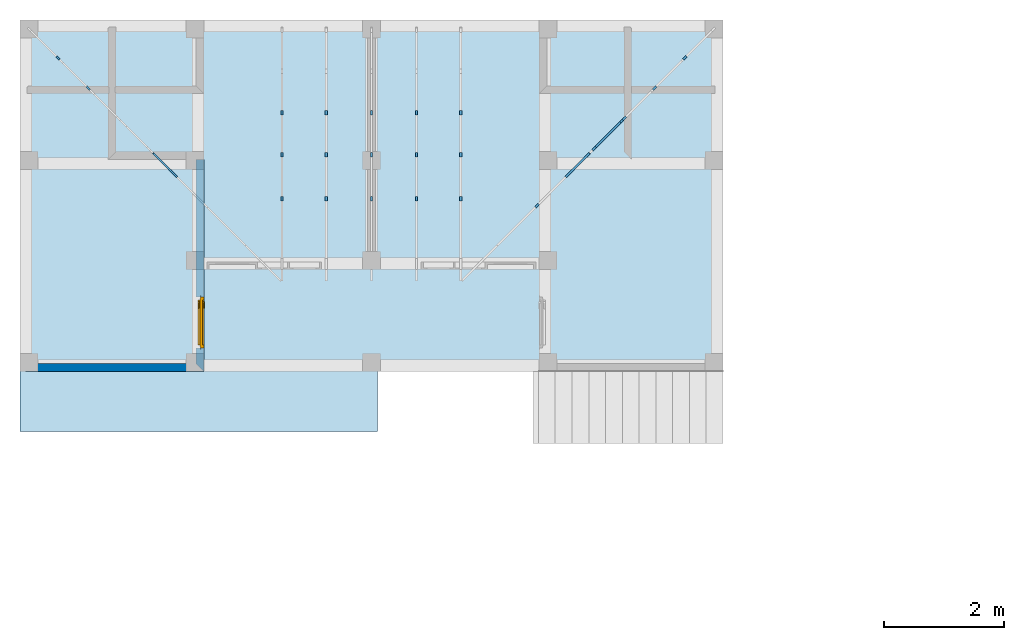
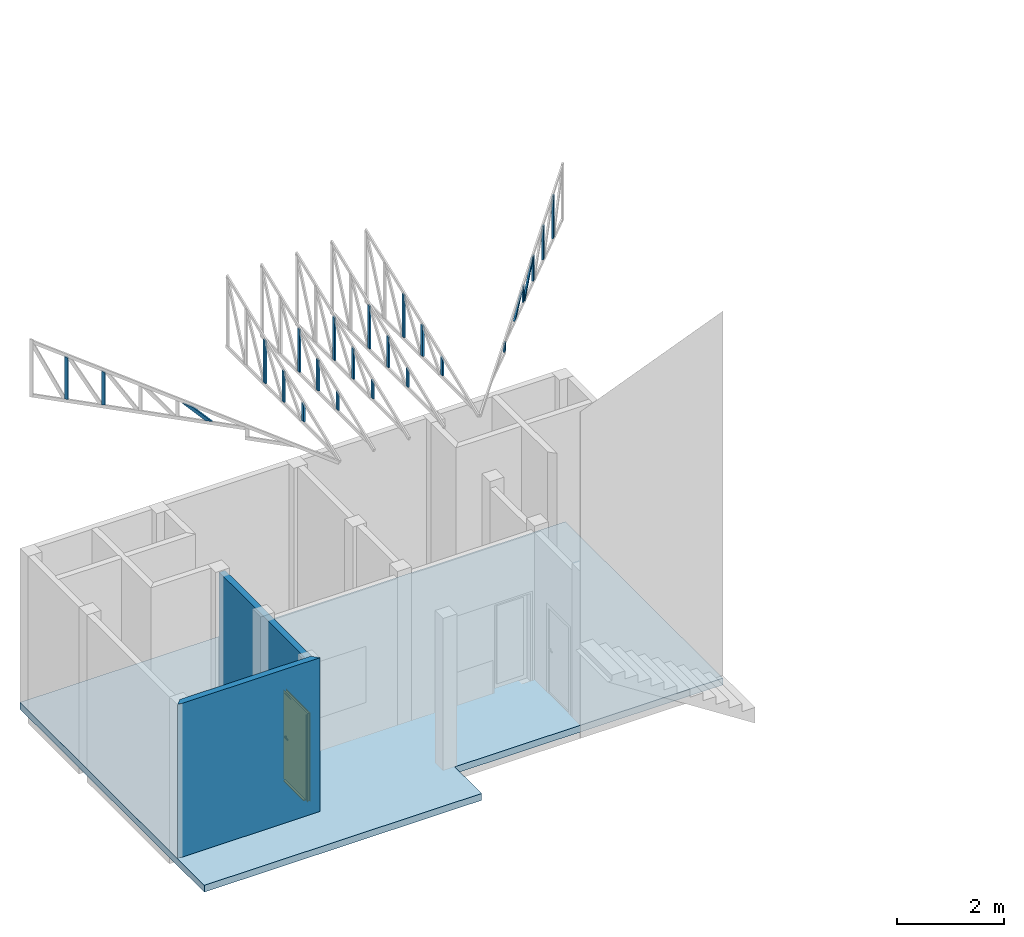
# One storey, part 3 of 10: 25 members, 2 walls, 1 door, 1 slab, 1 opening, 7 elements without a shape of their own.
"""IFC4X3_ADD2 building model written with IfcOpenShell, lengths in millimetres."""

from ifc_helpers import new_model, entity, si_unit, converted_unit, frame, origin_with_axes, origin_2d_with_axis, place, context, subcontext, project, spatial, line, indexed_curve, rectangle, outline, extrude, clip, halfspace, shape, source, transform, mapped, material, layer, layer_set, layer_usage, material_profile, profile_set, profile_usage, type_object, type_shapes, element, fill, aggregate, save


model = new_model("IFC4X3_ADD2")

# Units and contexts
model_context = context("Model", 3, precision=1e-05, world=origin_with_axes())
plan_context = context("Plan", 2, precision=1e-05, world=origin_2d_with_axis())
body_context_1 = subcontext(model_context, "Body", "Model", "MODEL_VIEW")
body_context_2 = subcontext(plan_context, "Body", "Plan", "PLAN_VIEW")
ifc_project = project(units=[si_unit("VOLUMEUNIT", "CUBIC_METRE"), si_unit("LENGTHUNIT", "METRE", prefix="MILLI"), converted_unit("PLANEANGLEUNIT", "degree", entity("IfcReal", 0.0174532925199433), si_unit("PLANEANGLEUNIT", "RADIAN"), dimensions=[0, 0, 0, 0, 0, 0, 0]), si_unit("AREAUNIT", "SQUARE_METRE")], contexts=[model_context, plan_context])

# Site, building, storey
site_placement = place(None, origin_with_axes())
site = spatial("IfcSite", under=ifc_project, at=site_placement, Name="My Site")
building_placement = place(site_placement, origin_with_axes())
building = spatial("IfcBuilding", under=site, at=building_placement, Name="My Building")
storey_placement = place(building_placement, origin_with_axes())
storey = spatial("IfcBuildingStorey", under=building, at=storey_placement, Name="Lantai 1")

# Assembly, members
assembly_1_placement = place(storey_placement, frame((-23.0636596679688, 5586.93552017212, 3885.87069511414), z_axis=(0.0, 0.0, 1.0), x_axis=(0.707106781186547, 0.707106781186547, 0.0)))
assembly_1 = element("IfcElementAssembly", 1, at=assembly_1_placement, inside=storey, Name="KK2_0")
ifc_material_1 = material(Name="Galvanis")
ifc_material_profile = material_profile(ifc_material_1, rectangle(XDim=35.0, YDim=75.0))
ifc_profile_set = profile_set([ifc_material_profile])
ifc_profile_usage_1 = profile_usage(ifc_profile_set, cardinal=5)
member_type = type_object("IfcMemberType", Name="C75", PredefinedType="MEMBER", material=ifc_profile_set)
member_1_placement = place(assembly_1_placement, frame((4.33337037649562, -713.761262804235, 3183.05468559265), z_axis=(0.0, 0.0, 1.0), x_axis=(-0.999999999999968, -2.52881095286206e-07, 0.0)))
member_1 = element("IfcMember", 2, at=member_1_placement, type_object=member_type, material=ifc_profile_usage_1, Name="Member", context=body_context_1, shape_type="Clipping", body=[
    clip(extrude(rectangle(XDim=35.0, YDim=75.0), origin_with_axes(), (0.0, 0.0, 1.0), 1029.21869607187), halfspace(frame((0.00149011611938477, 5247.90620803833, -529.044628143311), z_axis=(2.98023223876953e-08, 0.271984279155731, 0.962301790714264), x_axis=(0.999999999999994, -1.09573694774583e-07, 0.0)), False)),
])
ifc_profile_usage_2 = profile_usage(ifc_profile_set, cardinal=5)
member_2_placement = place(assembly_1_placement, frame((4.33370755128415, -1427.52218843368, 3183.05373191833), z_axis=(0.0, 0.0, 1.0), x_axis=(-0.999999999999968, -2.52881095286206e-07, 0.0)))
member_2 = element("IfcMember", 3, at=member_2_placement, type_object=member_type, material=ifc_profile_usage_2, Name="Member", context=body_context_1, shape_type="Clipping", body=[
    clip(extrude(rectangle(XDim=35.0, YDim=75.0), origin_with_axes(), (0.0, 0.0, 1.0), 827.482225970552), halfspace(frame((0.00149011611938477, 4534.14535522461, -529.044628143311), z_axis=(2.98023223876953e-08, 0.271984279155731, 0.962301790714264), x_axis=(0.999999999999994, -1.09573694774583e-07, 0.0)), False)),
])
ifc_profile_usage_3 = profile_usage(ifc_profile_set, cardinal=5)
member_3_placement = place(assembly_1_placement, frame((4.33337037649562, -3523.50485819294, 3139.91045951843), z_axis=(-2.10734242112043e-07, 0.817982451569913, 0.575243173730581), x_axis=(-0.999999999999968, -2.52881095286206e-07, 1.28053889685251e-08)))
member_3 = element("IfcMember", 4, at=member_3_placement, type_object=member_type, material=ifc_profile_usage_3, Name="Member", context=body_context_1, shape_type="Clipping", body=[
    clip(clip(extrude(rectangle(XDim=35.0, YDim=75.0), origin_with_axes(), (0.0, 0.0, 1.0), 665.670355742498), halfspace(frame((0.00101327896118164, 1005.07783889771, -2273.88477325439), z_axis=(2.98023223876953e-08, 0.943603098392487, 0.33107915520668), x_axis=(1.0, -3.15835359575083e-08, 0.0)), False)), halfspace(frame((0.000596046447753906, 405.028462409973, -500.941634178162), z_axis=(-6.32203693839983e-08, -0.817982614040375, -0.575242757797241), x_axis=(-0.999999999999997, 7.72881578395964e-08, 0.0)), False)),
])
aggregate(assembly_1, [member_1, member_2, member_3])

assembly_2_placement = place(storey_placement, frame((11456.9368362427, 5593.06478500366, 3886.06977462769), z_axis=(0.0, 0.0, 1.0), x_axis=(0.707106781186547, -0.707106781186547, 0.0)))
assembly_2 = element("IfcElementAssembly", 5, at=assembly_2_placement, inside=storey, Name="KK2_1")
ifc_profile_usage_4 = profile_usage(ifc_profile_set, cardinal=5)
member_4_placement = place(assembly_2_placement, frame((4.33404472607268, -1427.52185125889, 3183.05397033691), z_axis=(0.0, 0.0, 1.0), x_axis=(-0.999999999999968, -2.52881095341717e-07, 0.0)))
member_4 = element("IfcMember", 6, at=member_4_placement, type_object=member_type, material=ifc_profile_usage_4, Name="Member.035", context=body_context_1, shape_type="SweptSolid", body=[
    extrude(rectangle(XDim=35.0, YDim=75.0), origin_with_axes(), (0.0, 0.0, 1.0), 763.082017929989),
])
ifc_profile_usage_5 = profile_usage(ifc_profile_set, cardinal=5)
member_5_placement = place(assembly_2_placement, frame((4.33404472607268, -2141.28311406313, 3183.05397033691), z_axis=(-4.01943669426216e-13, 1.59049761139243e-06, 0.999999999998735), x_axis=(-0.999999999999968, -2.52881095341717e-07, -6.6386655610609e-14)))
member_5 = element("IfcMember", 7, at=member_5_placement, type_object=member_type, material=ifc_profile_usage_5, Name="Member.038", context=body_context_1, shape_type="SweptSolid", body=[
    extrude(rectangle(XDim=35.0, YDim=75.0), origin_with_axes(), (0.0, 0.0, 1.0), 561.345106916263),
])
ifc_profile_usage_6 = profile_usage(ifc_profile_set, cardinal=5)
member_6_placement = place(assembly_2_placement, frame((4.3333703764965, -2855.04370251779, 3183.05397033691), z_axis=(0.0, 0.0, 1.0), x_axis=(-0.999999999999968, -2.52881095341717e-07, 0.0)))
member_6 = element("IfcMember", 8, at=member_6_placement, type_object=member_type, material=ifc_profile_usage_6, Name="Member.039", context=body_context_1, shape_type="SweptSolid", body=[
    extrude(rectangle(XDim=35.0, YDim=75.0), origin_with_axes(), (0.0, 0.0, 1.0), 359.609133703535),
])
ifc_profile_usage_7 = profile_usage(ifc_profile_set, cardinal=5)
member_7_placement = place(assembly_2_placement, frame((4.33337037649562, -713.761262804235, 3183.05492401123), z_axis=(0.0, 0.0, 1.0), x_axis=(-0.999999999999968, -2.52881095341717e-07, 0.0)))
member_7 = element("IfcMember", 9, at=member_7_placement, type_object=member_type, material=ifc_profile_usage_7, Name="Member.048", context=body_context_1, shape_type="SweptSolid", body=[
    extrude(rectangle(XDim=35.0, YDim=75.0), origin_with_axes(), (0.0, 0.0, 1.0), 964.81848309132),
])
ifc_profile_usage_8 = profile_usage(ifc_profile_set, cardinal=5)
member_8_placement = place(assembly_2_placement, frame((4.33337037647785, -2806.05760060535, 3156.34822845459), z_axis=(-1.26440541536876e-07, 0.712115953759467, 0.702061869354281), x_axis=(-0.999999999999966, -2.52881095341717e-07, 5.5682812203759e-08)))
member_8 = element("IfcMember", 10, at=member_8_placement, type_object=member_type, material=ifc_profile_usage_8, Name="Member.049", context=body_context_1, shape_type="SweptSolid", body=[
    extrude(rectangle(XDim=35.0, YDim=75.0), origin_with_axes(), (0.0, 0.0, 1.0), 846.074566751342),
])
ifc_profile_usage_9 = profile_usage(ifc_profile_set, cardinal=5)
member_9_placement = place(assembly_2_placement, frame((4.33303320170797, -4203.75735338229, 2960.51692962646), z_axis=(0.0, 0.0, 1.0), x_axis=(-0.999999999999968, -2.52881095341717e-07, 0.0)))
member_9 = element("IfcMember", 11, at=member_9_placement, type_object=member_type, material=ifc_profile_usage_9, Name="Member.050", context=body_context_1, shape_type="SweptSolid", body=[
    extrude(rectangle(XDim=35.0, YDim=75.0), origin_with_axes(), (0.0, 0.0, 1.0), 200.947284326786),
])
ifc_profile_usage_10 = profile_usage(ifc_profile_set, cardinal=5)
member_10_placement = place(assembly_2_placement, frame((4.33337037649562, -3523.50485819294, 3139.91069793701), z_axis=(-1.68587393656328e-07, 0.817982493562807, 0.575243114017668), x_axis=(-0.999999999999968, -2.52881095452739e-07, 2.03708449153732e-08)))
member_10 = element("IfcMember", 12, at=member_10_placement, type_object=member_type, material=ifc_profile_usage_10, Name="Member.053", context=body_context_1, shape_type="Clipping", body=[
    clip(clip(extrude(rectangle(XDim=35.0, YDim=75.0), origin_with_axes(), (0.0, 0.0, 1.0), 665.669381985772), halfspace(frame((-0.000103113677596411, 1005.07736206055, -2273.88525009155), z_axis=(-1.35233946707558e-07, 0.943602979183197, 0.331079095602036), x_axis=(0.99999999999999, 1.43316574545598e-07, 0.0)), False)), halfspace(frame((-2.77423026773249e-05, 405.028104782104, -500.942230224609), z_axis=(3.34178338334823e-08, -0.817982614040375, -0.575242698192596), x_axis=(-0.999999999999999, -4.08539659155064e-08, 0.0)), False)),
])
aggregate(assembly_2, [member_4, member_5, member_6, member_7, member_8, member_9, member_10])

assembly_3_placement = place(storey_placement, frame((4964.99967575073, 5604.99954223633, 6607.21015930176), z_axis=(0.0, 0.0, 1.0), x_axis=(1.0, 0.0, 0.0)))
assembly_3 = element("IfcElementAssembly", 13, at=assembly_3_placement, inside=storey, Name="KK1_1")
ifc_profile_usage_11 = profile_usage(ifc_profile_set, cardinal=2)
member_11_placement = place(assembly_3_placement, frame((0.0, -2833.3535194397, 75.0002861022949), z_axis=(0.0, 0.0, 1.0), x_axis=(-0.999999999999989, -1.50995802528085e-07, 0.0)))
member_11 = element("IfcMember", 14, at=member_11_placement, type_object=member_type, material=ifc_profile_usage_11, Name="Member.068", context=body_context_1, shape_type="Clipping", body=[
    clip(extrude(rectangle(XDim=35.0, YDim=75.0), frame((0.0, 37.5, 0.0), z_axis=(0.0, 0.0, 1.0), x_axis=(1.0, 0.0, 0.0)), (0.0, 0.0, 1.0), 484.720706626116), halfspace(frame((-0.000369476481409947, -2833.23574066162, 1534.339427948), z_axis=(5.5707754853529e-08, 0.368935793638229, 0.929454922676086), x_axis=(0.999999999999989, -1.50995798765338e-07, 0.0)), False)),
])
ifc_profile_usage_12 = profile_usage(ifc_profile_set, cardinal=2)
member_12_placement = place(assembly_3_placement, frame((0.0, -1399.99771118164, 74.9998092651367), z_axis=(0.0, 0.0, 1.0), x_axis=(-0.999999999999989, -1.50995802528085e-07, 0.0)))
member_12 = element("IfcMember", 15, at=member_12_placement, type_object=member_type, material=ifc_profile_usage_12, Name="Member.079", context=body_context_1, shape_type="SweptSolid", body=[
    extrude(rectangle(XDim=35.0, YDim=75.0), frame((0.0, 37.5, 0.0), z_axis=(0.0, 0.0, 1.0), x_axis=(1.0, 0.0, 0.0)), (0.0, 0.0, 1.0), 975.92401613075),
])
ifc_profile_usage_13 = profile_usage(ifc_profile_set, cardinal=2)
member_13_placement = place(assembly_3_placement, frame((0.0, -2100.00228881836, 74.9998092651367), z_axis=(0.0, 0.0, 1.0), x_axis=(-0.999999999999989, -1.50995802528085e-07, 0.0)))
member_13 = element("IfcMember", 16, at=member_13_placement, type_object=member_type, material=ifc_profile_usage_13, Name="Member.098", context=body_context_1, shape_type="SweptSolid", body=[
    extrude(rectangle(XDim=35.0, YDim=75.0), frame((0.0, 37.5, 0.0), z_axis=(0.0, 0.0, 1.0), x_axis=(1.0, 0.0, 0.0)), (0.0, 0.0, 1.0), 696.690084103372),
])
aggregate(assembly_3, [member_11, member_12, member_13])

assembly_4_placement = place(storey_placement, frame((7212.50009536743, 5604.99954223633, 6607.21015930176), z_axis=(0.0, 0.0, 1.0), x_axis=(1.0, 0.0, 0.0)))
assembly_4 = element("IfcElementAssembly", 17, at=assembly_4_placement, inside=storey, Name="KK1_4")
ifc_profile_usage_14 = profile_usage(ifc_profile_set, cardinal=2)
member_14_placement = place(assembly_4_placement, frame((0.0, -1399.99771118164, 74.9998092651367), z_axis=(0.0, 0.0, 1.0), x_axis=(-0.999999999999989, -1.50995802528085e-07, 0.0)))
member_14 = element("IfcMember", 18, at=member_14_placement, type_object=member_type, material=ifc_profile_usage_14, Name="Member.075", context=body_context_1, shape_type="SweptSolid", body=[
    extrude(rectangle(XDim=35.0, YDim=75.0), frame((0.0, 37.5, 0.0), z_axis=(0.0, 0.0, 1.0), x_axis=(1.0, 0.0, 0.0)), (0.0, 0.0, 1.0), 975.92401613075),
])
ifc_profile_usage_15 = profile_usage(ifc_profile_set, cardinal=2)
member_15_placement = place(assembly_4_placement, frame((0.0, -2833.3535194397, 75.0002861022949), z_axis=(0.0, 0.0, 1.0), x_axis=(-0.999999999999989, -1.50995802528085e-07, 0.0)))
member_15 = element("IfcMember", 19, at=member_15_placement, type_object=member_type, material=ifc_profile_usage_15, Name="Member.080", context=body_context_1, shape_type="Clipping", body=[
    clip(extrude(rectangle(XDim=35.0, YDim=75.0), frame((0.0, 37.5, 0.0), z_axis=(0.0, 0.0, 1.0), x_axis=(1.0, 0.0, 0.0)), (0.0, 0.0, 1.0), 484.720706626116), halfspace(frame((-0.000369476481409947, -2833.23574066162, 1534.339427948), z_axis=(5.5707754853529e-08, 0.368935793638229, 0.929454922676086), x_axis=(0.999999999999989, -1.50995798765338e-07, 0.0)), False)),
])
ifc_profile_usage_16 = profile_usage(ifc_profile_set, cardinal=2)
member_16_placement = place(assembly_4_placement, frame((0.0, -2100.00228881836, 74.9998092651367), z_axis=(0.0, 0.0, 1.0), x_axis=(-0.999999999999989, -1.50995802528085e-07, 0.0)))
member_16 = element("IfcMember", 20, at=member_16_placement, type_object=member_type, material=ifc_profile_usage_16, Name="Member.081", context=body_context_1, shape_type="SweptSolid", body=[
    extrude(rectangle(XDim=35.0, YDim=75.0), frame((0.0, 37.5, 0.0), z_axis=(0.0, 0.0, 1.0), x_axis=(1.0, 0.0, 0.0)), (0.0, 0.0, 1.0), 696.690084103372),
])
aggregate(assembly_4, [member_14, member_15, member_16])

assembly_5_placement = place(storey_placement, frame((6474.99990463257, 5604.99954223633, 6607.21063613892), z_axis=(0.0, 0.0, 1.0), x_axis=(1.0, 0.0, 0.0)))
assembly_5 = element("IfcElementAssembly", 21, at=assembly_5_placement, inside=storey, Name="KK1_3")
ifc_profile_usage_17 = profile_usage(ifc_profile_set, cardinal=2)
member_17_placement = place(assembly_5_placement, frame((0.0, -1399.99771118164, 74.9998092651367), z_axis=(0.0, 0.0, 1.0), x_axis=(-0.999999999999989, -1.50995802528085e-07, 0.0)))
member_17 = element("IfcMember", 22, at=member_17_placement, type_object=member_type, material=ifc_profile_usage_17, Name="Member.084", context=body_context_1, shape_type="SweptSolid", body=[
    extrude(rectangle(XDim=35.0, YDim=75.0), frame((0.0, 37.5, 0.0), z_axis=(0.0, 0.0, 1.0), x_axis=(1.0, 0.0, 0.0)), (0.0, 0.0, 1.0), 975.92401613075),
])
ifc_profile_usage_18 = profile_usage(ifc_profile_set, cardinal=2)
member_18_placement = place(assembly_5_placement, frame((0.0, -2833.3535194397, 75.0002861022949), z_axis=(0.0, 0.0, 1.0), x_axis=(-0.999999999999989, -1.50995802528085e-07, 0.0)))
member_18 = element("IfcMember", 23, at=member_18_placement, type_object=member_type, material=ifc_profile_usage_18, Name="Member.099", context=body_context_1, shape_type="Clipping", body=[
    clip(extrude(rectangle(XDim=35.0, YDim=75.0), frame((0.0, 37.5, 0.0), z_axis=(0.0, 0.0, 1.0), x_axis=(1.0, 0.0, 0.0)), (0.0, 0.0, 1.0), 484.720706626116), halfspace(frame((-0.000369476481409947, -2833.23574066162, 1534.339427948), z_axis=(5.5707754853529e-08, 0.368935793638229, 0.929454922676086), x_axis=(0.999999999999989, -1.50995798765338e-07, 0.0)), False)),
])
ifc_profile_usage_19 = profile_usage(ifc_profile_set, cardinal=2)
member_19_placement = place(assembly_5_placement, frame((0.0, -2100.00228881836, 74.9998092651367), z_axis=(0.0, 0.0, 1.0), x_axis=(-0.999999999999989, -1.50995802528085e-07, 0.0)))
member_19 = element("IfcMember", 24, at=member_19_placement, type_object=member_type, material=ifc_profile_usage_19, Name="Member.100", context=body_context_1, shape_type="SweptSolid", body=[
    extrude(rectangle(XDim=35.0, YDim=75.0), frame((0.0, 37.5, 0.0), z_axis=(0.0, 0.0, 1.0), x_axis=(1.0, 0.0, 0.0)), (0.0, 0.0, 1.0), 696.690084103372),
])
aggregate(assembly_5, [member_17, member_18, member_19])

assembly_6_placement = place(storey_placement, frame((4227.49996185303, 5604.99954223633, 6607.21015930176), z_axis=(0.0, 0.0, 1.0), x_axis=(1.0, 0.0, 0.0)))
assembly_6 = element("IfcElementAssembly", 25, at=assembly_6_placement, inside=storey, Name="KK1_2")
ifc_profile_usage_20 = profile_usage(ifc_profile_set, cardinal=2)
member_20_placement = place(assembly_6_placement, frame((0.0, -1399.99771118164, 74.9998092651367), z_axis=(0.0, 0.0, 1.0), x_axis=(-0.999999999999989, -1.50995802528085e-07, 0.0)))
member_20 = element("IfcMember", 26, at=member_20_placement, type_object=member_type, material=ifc_profile_usage_20, Name="Member.056", context=body_context_1, shape_type="SweptSolid", body=[
    extrude(rectangle(XDim=35.0, YDim=75.0), frame((0.0, 37.5, 0.0), z_axis=(0.0, 0.0, 1.0), x_axis=(1.0, 0.0, 0.0)), (0.0, 0.0, 1.0), 975.92401613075),
])
ifc_profile_usage_21 = profile_usage(ifc_profile_set, cardinal=2)
member_21_placement = place(assembly_6_placement, frame((0.0, -2833.3535194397, 75.0002861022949), z_axis=(0.0, 0.0, 1.0), x_axis=(-0.999999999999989, -1.50995802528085e-07, 0.0)))
member_21 = element("IfcMember", 27, at=member_21_placement, type_object=member_type, material=ifc_profile_usage_21, Name="Member.060", context=body_context_1, shape_type="Clipping", body=[
    clip(extrude(rectangle(XDim=35.0, YDim=75.0), frame((0.0, 37.5, 0.0), z_axis=(0.0, 0.0, 1.0), x_axis=(1.0, 0.0, 0.0)), (0.0, 0.0, 1.0), 484.720706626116), halfspace(frame((-0.000369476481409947, -2833.23574066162, 1534.339427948), z_axis=(5.5707754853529e-08, 0.368935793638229, 0.929454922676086), x_axis=(0.999999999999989, -1.50995798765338e-07, 0.0)), False)),
])
ifc_profile_usage_22 = profile_usage(ifc_profile_set, cardinal=2)
member_22_placement = place(assembly_6_placement, frame((0.0, -2100.00228881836, 74.9998092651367), z_axis=(0.0, 0.0, 1.0), x_axis=(-0.999999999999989, -1.50995802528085e-07, 0.0)))
member_22 = element("IfcMember", 28, at=member_22_placement, type_object=member_type, material=ifc_profile_usage_22, Name="Member.061", context=body_context_1, shape_type="SweptSolid", body=[
    extrude(rectangle(XDim=35.0, YDim=75.0), frame((0.0, 37.5, 0.0), z_axis=(0.0, 0.0, 1.0), x_axis=(1.0, 0.0, 0.0)), (0.0, 0.0, 1.0), 696.690084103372),
])
aggregate(assembly_6, [member_20, member_21, member_22])

assembly_7_placement = place(storey_placement, frame((5720.00169754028, 5604.99954223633, 6607.21015930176), z_axis=(0.0, 0.0, 1.0), x_axis=(1.0, 0.0, 0.0)))
assembly_7 = element("IfcElementAssembly", 29, at=assembly_7_placement, inside=storey, Name="KK1_0")
ifc_profile_usage_23 = profile_usage(ifc_profile_set, cardinal=2)
member_23_placement = place(assembly_7_placement, frame((0.0, -1399.99771118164, 74.9998092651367), z_axis=(0.0, 0.0, 1.0), x_axis=(-0.999999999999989, -1.50995802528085e-07, 0.0)))
member_23 = element("IfcMember", 30, at=member_23_placement, type_object=member_type, material=ifc_profile_usage_23, Name="Member.010", context=body_context_1, shape_type="SweptSolid", body=[
    extrude(rectangle(XDim=35.0, YDim=75.0), frame((0.0, 37.5, 0.0), z_axis=(0.0, 0.0, 1.0), x_axis=(1.0, 0.0, 0.0)), (0.0, 0.0, 1.0), 975.92401613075),
])
ifc_profile_usage_24 = profile_usage(ifc_profile_set, cardinal=2)
member_24_placement = place(assembly_7_placement, frame((0.0, -2833.3535194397, 75.0002861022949), z_axis=(0.0, 0.0, 1.0), x_axis=(-0.999999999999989, -1.50995802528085e-07, 0.0)))
member_24 = element("IfcMember", 31, at=member_24_placement, type_object=member_type, material=ifc_profile_usage_24, Name="Member.014", context=body_context_1, shape_type="Clipping", body=[
    clip(extrude(rectangle(XDim=35.0, YDim=75.0), frame((0.0, 37.5, 0.0), z_axis=(0.0, 0.0, 1.0), x_axis=(1.0, 0.0, 0.0)), (0.0, 0.0, 1.0), 484.720706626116), halfspace(frame((-0.000369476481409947, -2833.23574066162, 1534.339427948), z_axis=(5.5707754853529e-08, 0.368935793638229, 0.929454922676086), x_axis=(0.999999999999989, -1.50995798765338e-07, 0.0)), False)),
])
ifc_profile_usage_25 = profile_usage(ifc_profile_set, cardinal=2)
member_25_placement = place(assembly_7_placement, frame((0.0, -2100.00228881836, 74.9998092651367), z_axis=(0.0, 0.0, 1.0), x_axis=(-0.999999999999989, -1.50995802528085e-07, 0.0)))
member_25 = element("IfcMember", 32, at=member_25_placement, type_object=member_type, material=ifc_profile_usage_25, Name="Member.016", context=body_context_1, shape_type="SweptSolid", body=[
    extrude(rectangle(XDim=35.0, YDim=75.0), frame((0.0, 37.5, 0.0), z_axis=(0.0, 0.0, 1.0), x_axis=(1.0, 0.0, 0.0)), (0.0, 0.0, 1.0), 696.690084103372),
])
aggregate(assembly_7, [member_23, member_24, member_25])

# Slab
ifc_material_2 = material(Name="concrete")
ifc_layer_1 = layer(ifc_material_2, 120.000007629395)
ifc_material_3 = material(Name="keramik")
ifc_layer_2 = layer(ifc_material_3, 35.0)
ifc_layer_set_1 = layer_set([ifc_layer_1, ifc_layer_2])
ifc_layer_usage_1 = layer_usage(ifc_layer_set_1, "AXIS3", "POSITIVE", -120.000007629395)
slab_type = type_object("IfcSlabType", Name="concrete slab", PredefinedType="FLOOR", material=ifc_layer_set_1)
slab_placement = place(storey_placement, frame((-149.999558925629, 5719.99979019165, -35.0000001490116), z_axis=(0.0, 0.0, 1.0), x_axis=(1.0, 0.0, 0.0)))
element("IfcSlab", 33, at=slab_placement, inside=storey, type_object=slab_type, material=ifc_layer_usage_1, Name="Slab", context=body_context_1, shape_type="SweptSolid", body=[
    extrude(outline(indexed_curve([(11739.9990234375, -5869.99951171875), (11739.9990234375, 0.0), (0.0, 0.0), (-0.000447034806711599, -6869.998046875), (5969.9990234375, -6869.998046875), (5969.9990234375, -5869.99951171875), (11739.9990234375, -5869.99951171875)])), frame((0.0, 0.0, -120.000007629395), z_axis=(0.0, 0.0, 1.0), x_axis=(1.0, 0.0, 0.0)), (0.0, 0.0, 1.0), 155.000007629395),
])

# Wall
ifc_material_4 = material(Name="plester")
ifc_layer_3 = layer(ifc_material_4, 15.0000009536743, Priority=1)
ifc_material_5 = material(Name="brick", Category="Uncategorised")
ifc_layer_4 = layer(ifc_material_5, 100.0, Priority=4)
ifc_layer_5 = layer(ifc_material_4, 15.0000009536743)
ifc_layer_set_2 = layer_set([ifc_layer_3, ifc_layer_4, ifc_layer_5])
ifc_layer_usage_2 = layer_usage(ifc_layer_set_2, "AXIS2", "POSITIVE", 0.0)
wall_type = type_object("IfcWallType", Name="WALL-130", PredefinedType="SOLIDWALL", material=ifc_layer_set_2)
wall_1_placement = place(storey_placement, frame((2920.00007629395, -20.0000040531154, 0.0), z_axis=(0.0, 0.0, 1.0), x_axis=(-0.999999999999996, 8.74227765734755e-08, 0.0)))
element("IfcWall", 34, at=wall_1_placement, inside=storey, type_object=wall_type, material=ifc_layer_usage_2, Name="Wall", context=body_context_1, shape_type="SweptSolid", body=[
    extrude(outline(indexed_curve([(130.000000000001, 0.0), (115.000000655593, 15.0000009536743), (15.0000113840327, 115.000000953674), (1.20396245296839e-05, 130.000001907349), (2955.00006993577, 130.000001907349), (3055.00007011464, 115.000000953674), (2955.00007130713, 15.0000009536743), (2955.000071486, 0.0), (2940.00007053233, 0.0)], segments=[line(1, 2, 3, 4, 5, 6, 7, 8, 9, 1)])), origin_with_axes(), (0.0, 0.0, 1.0), 3500.00023841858),
])

# Wall, opening, door
ifc_layer_usage_3 = layer_usage(ifc_layer_set_2, "AXIS2", "NEGATIVE", 130.0)
wall_2_placement = place(storey_placement, frame((2920.00007629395, -20.0000040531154, 0.0), z_axis=(0.0, 0.0, 1.0), x_axis=(1.94707183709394e-07, 0.999999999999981, 0.0)))
wall_2 = element("IfcWall", 35, at=wall_2_placement, inside=storey, type_object=wall_type, material=ifc_layer_usage_3, Name="Wall", context=body_context_1, shape_type="SweptSolid", body=[
    extrude(outline(indexed_curve([(-130.000001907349, -1.90734860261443e-06), (-115.000002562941, 14.9999990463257), (-15.0000132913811, 114.999999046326), (-1.39469729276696e-05, 130.0), (3409.99998384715, 130.0), (3409.99998384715, -1.90734860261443e-06)], segments=[line(1, 2, 3, 4, 5, 6, 1)])), origin_with_axes(), (0.0, 0.0, 1.0), 3345.00026702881),
])
shared_shape_1 = source(origin_with_axes(), body_context_1, "Body", "SweptSolid", [
    extrude(outline(indexed_curve([(0.0, 0.0), (850.0, 0.0), (850.0, 2000.0), (0.0, 2000.0)], segments=[line(1, 2, 3, 4, 1)])), frame((0.0, -600.0, 0.0), z_axis=(0.0, -1.0, 0.0), x_axis=(1.0, 0.0, 0.0)), (0.0, 0.0, -1.0), 1200.0),
])
opening_placement = place(wall_2_placement, frame((263.47722935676, 5.13009092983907e-05, 0.0), z_axis=(0.0, 0.0, 1.0), x_axis=(0.999999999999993, -1.19209289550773e-07, 0.0)))
opening = element("IfcOpeningElement", 36, at=opening_placement, cuts=wall_2, Name="Opening", PredefinedType="OPENING", context=body_context_1, shape_type="MappedRepresentation", body=[
    mapped(shared_shape_1, transform((0.0, 0.0, 0.0), x_axis=(1.0, 0.0, 0.0), y_axis=(0.0, 1.0, 0.0), z_axis=(0.0, 0.0, 1.0), scale=1.0)),
])
door_type = type_object("IfcDoorType", Name="D01 L", OperationType="SINGLE_SWING_LEFT", PredefinedType="BOOM_BARRIER")
shared_shape_2 = source(origin_with_axes(), body_context_1, "Body", "SweptSolid", [
    extrude(outline(indexed_curve([(0.0, 0.0), (0.0, 2000.0), (850.000023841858, 2000.0), (850.000023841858, 0.0), (825.000023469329, 0.0), (825.000023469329, 1974.99999962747), (25.000000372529, 1974.99999962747), (25.000000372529, 0.0)], segments=[line(1, 2, 3, 4, 5, 6, 7, 8, 1)])), frame((0.0, 25.000000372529, 0.0), z_axis=(0.0, -1.0, 0.0), x_axis=(1.0, 0.0, 0.0)), (0.0, 0.0, -1.0), 25.000000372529),
    extrude(outline(indexed_curve([(0.0, 0.0), (0.0, 2000.0), (850.000023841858, 2000.0), (850.000023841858, 0.0), (800.0000230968, 0.0), (800.0000230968, 1949.99999925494), (50.0000007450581, 1949.99999925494), (50.0000007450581, 0.0)], segments=[line(1, 2, 3, 4, 5, 6, 7, 8, 1)])), frame((0.0, 0.0, 0.0), z_axis=(0.0, -1.0, 0.0), x_axis=(1.0, 0.0, 0.0)), (0.0, 0.0, -1.0), 25.000000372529),
    extrude(outline(indexed_curve([(0.0, 0.0), (800.0000230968, 0.0), (800.0000230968, 35.0000001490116), (0.0, 35.0000001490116)], segments=[line(1, 2, 3, 4, 1)])), frame((25.000000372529, 25.000000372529, 25.000000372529), z_axis=(0.0, 0.0, 1.0), x_axis=(1.0, 0.0, 0.0)), (0.0, 0.0, 1.0), 1949.99999925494),
    extrude(outline(indexed_curve([(0.0, 0.0), (0.0, -40.0), (-120.0, -40.0), (-120.0, -20.0), (-20.0, -20.0), (-20.0, 0.0)], segments=[line(1, 2, 3, 4, 5, 6, 1)])), frame((775.000023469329, 25.000000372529, 1015.00000037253), z_axis=(0.0, 0.0, 1.0), x_axis=(1.0, 0.0, 0.0)), (0.0, 0.0, 1.0), 20.0),
    extrude(outline(indexed_curve([(0.0, 0.0), (0.0, 40.0), (-120.0, 40.0), (-120.0, 20.0), (-20.0, 20.0), (-20.0, 0.0)], segments=[line(1, 2, 3, 4, 5, 6, 1)])), frame((775.000023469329, 60.0000005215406, 1015.00000037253), z_axis=(0.0, 0.0, 1.0), x_axis=(1.0, 0.0, 0.0)), (0.0, 0.0, 1.0), 20.0),
    extrude(outline(indexed_curve([(0.0, 0.0), (750.000022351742, 0.0), (750.000022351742, 100.000001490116), (0.0, 100.000001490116)], segments=[line(1, 2, 3, 4, 1)])), frame((50.0000007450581, 0.0, 0.0), z_axis=(0.0, 0.0, 1.0), x_axis=(1.0, 0.0, 0.0)), (0.0, 0.0, 1.0), 25.000000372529),
    extrude(outline(indexed_curve([(0.0, 0.0), (0.0, 2025.00000223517), (900.000028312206, 2025.00000223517), (900.000028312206, 0.0), (825.000025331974, 0.0), (825.000025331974, 1949.99999925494), (75.0000029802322, 1949.99999925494), (75.0000029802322, 0.0)], segments=[line(1, 2, 3, 4, 5, 6, 7, 8, 1)])), frame((-25.0000022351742, -4.99999988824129, 0.0), z_axis=(0.0, -1.0, 0.0), x_axis=(1.0, 0.0, 0.0)), (0.0, 0.0, -1.0), 4.99999988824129),
    extrude(outline(indexed_curve([(0.0, 0.0), (0.0, 2025.00000223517), (900.000028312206, 2025.00000223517), (900.000028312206, 0.0), (850.000025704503, 0.0), (850.000025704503, 1974.99999962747), (50.0000026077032, 1974.99999962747), (50.0000026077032, 0.0)], segments=[line(1, 2, 3, 4, 5, 6, 7, 8, 1)])), frame((-25.0000022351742, 50.0000007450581, 0.0), z_axis=(0.0, -1.0, 0.0), x_axis=(1.0, 0.0, 0.0)), (0.0, 0.0, -1.0), 4.99999988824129),
])
shared_shape_3 = source(origin_with_axes(), body_context_2, "Body", "Curve2D", [
    entity("IfcIndexedPolyCurve", entity("IfcCartesianPointList2D", [[0.0, 0.0], [0.0, 50.0000007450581], [25.000000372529, 50.0000007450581], [25.000000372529, 25.000000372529], [50.0000007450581, 25.000000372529], [50.0000007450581, 0.0]]), [entity("IfcLineIndex", [1, 2, 3, 4, 5, 6, 1])]),
    entity("IfcIndexedPolyCurve", entity("IfcCartesianPointList2D", [[850.000023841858, 0.0], [850.000023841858, 50.0000007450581], [825.000023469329, 50.0000007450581], [825.000023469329, 25.000000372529], [800.0000230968, 25.000000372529], [800.0000230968, 0.0]]), [entity("IfcLineIndex", [1, 2, 3, 4, 5, 6, 1])]),
    entity("IfcTrimmedCurve", entity("IfcEllipse", entity("IfcAxis2Placement2D", entity("IfcCartesianPoint", [60.0000005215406, 50.0000007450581]), entity("IfcDirection", [1.0, 0.0])), 765.000022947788, 800.0000230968), [entity("IfcCartesianPoint", [825.000023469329, 50.0000007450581])], [entity("IfcCartesianPoint", [60.0000005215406, 850.000023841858])], True, "CARTESIAN"),
    entity("IfcIndexedPolyCurve", entity("IfcCartesianPointList2D", [[25.000000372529, 50.0000007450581], [60.0000005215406, 50.0000007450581], [60.0000005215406, 850.000023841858], [25.000000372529, 850.000023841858]]), [entity("IfcLineIndex", [1, 2, 3, 4, 1])]),
])
type_shapes(door_type, [shared_shape_2, shared_shape_3])
door_placement = place(opening_placement, frame((-8.32667268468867e-14, 0.0, 0.0), z_axis=(0.0, 0.0, 1.0), x_axis=(1.0, 0.0, 0.0)))
door = element("IfcDoor", 37, at=door_placement, inside=storey, type_object=door_type, Name="Door", OperationType="SINGLE_SWING_LEFT", OverallHeight=2000.0, OverallWidth=850.000023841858, PredefinedType="BOOM_BARRIER", shapes=[
    shape(body_context_1, "Body", "MappedRepresentation", [mapped(shared_shape_2, transform((0.0, 0.0, 0.0), x_axis=(1.0, 0.0, 0.0), y_axis=(0.0, 1.0, 0.0), z_axis=(0.0, 0.0, 1.0), scale=1.0))]),
    shape(body_context_2, "Body", "MappedRepresentation", [mapped(shared_shape_3, transform((0.0, 0.0, 0.0), x_axis=(1.0, 0.0, 0.0), y_axis=(0.0, 1.0, 0.0), z_axis=(0.0, 0.0, 1.0), scale=1.0))]),
])
fill(opening, door)

save(model, "model.ifc")
